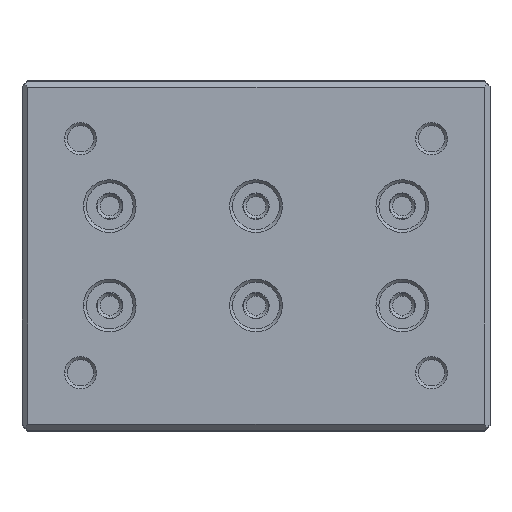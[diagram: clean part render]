
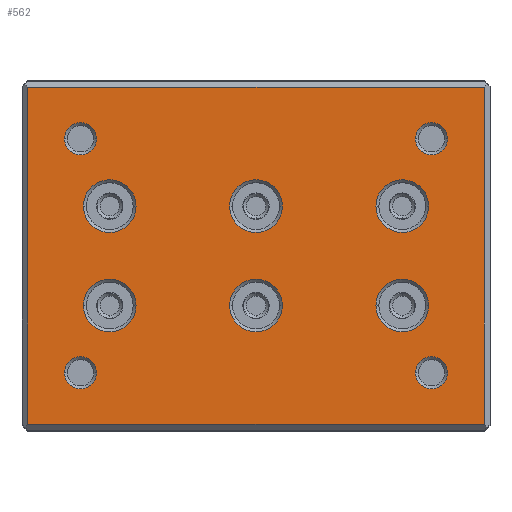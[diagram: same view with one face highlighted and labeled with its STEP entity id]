
A CAD part, top view. The second image highlights one B-rep face of the part: STEP entity #562.
In plain terms, the highlighted planar face has unit normal (0, 0, 1) as drawn and (0, 0, -1) by its records, which use the part's own axes.
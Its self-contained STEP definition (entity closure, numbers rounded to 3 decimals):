
#562=ADVANCED_FACE('',(#1223,#1224,#1225,#1226,#1227,#1228,#1229,#1230,
#1231,#1232,#1233),#849,.F.);
#849=PLANE('',#4666);
#947=CIRCLE('',#4646,2.75);
#948=CIRCLE('',#4647,2.75);
#949=CIRCLE('',#4648,2.75);
#950=CIRCLE('',#4649,2.75);
#951=CIRCLE('',#4650,2.75);
#952=CIRCLE('',#4651,2.75);
#953=CIRCLE('',#4652,2.75);
#954=CIRCLE('',#4653,2.75);
#955=CIRCLE('',#4654,4.5);
#956=CIRCLE('',#4655,4.5);
#957=CIRCLE('',#4656,4.5);
#958=CIRCLE('',#4657,4.5);
#959=CIRCLE('',#4658,4.5);
#960=CIRCLE('',#4659,4.5);
#961=CIRCLE('',#4660,4.5);
#962=CIRCLE('',#4661,4.5);
#963=CIRCLE('',#4662,4.5);
#964=CIRCLE('',#4663,4.5);
#965=CIRCLE('',#4664,4.5);
#966=CIRCLE('',#4665,4.5);
#1223=FACE_BOUND('',#1455,.T.);
#1224=FACE_BOUND('',#1456,.T.);
#1225=FACE_BOUND('',#1457,.T.);
#1226=FACE_BOUND('',#1458,.T.);
#1227=FACE_BOUND('',#1459,.T.);
#1228=FACE_BOUND('',#1460,.T.);
#1229=FACE_BOUND('',#1461,.T.);
#1230=FACE_BOUND('',#1462,.T.);
#1231=FACE_BOUND('',#1463,.T.);
#1232=FACE_BOUND('',#1464,.T.);
#1233=FACE_BOUND('',#1465,.T.);
#1455=EDGE_LOOP('',(#1879,#1880,#1881,#1882));
#1456=EDGE_LOOP('',(#1883,#1884));
#1457=EDGE_LOOP('',(#1885,#1886));
#1458=EDGE_LOOP('',(#1887,#1888));
#1459=EDGE_LOOP('',(#1889,#1890));
#1460=EDGE_LOOP('',(#1891,#1892));
#1461=EDGE_LOOP('',(#1893,#1894));
#1462=EDGE_LOOP('',(#1895,#1896));
#1463=EDGE_LOOP('',(#1897,#1898));
#1464=EDGE_LOOP('',(#1899,#1900));
#1465=EDGE_LOOP('',(#1901,#1902));
#1879=ORIENTED_EDGE('',*,*,#3507,.T.);
#1880=ORIENTED_EDGE('',*,*,#3508,.T.);
#1881=ORIENTED_EDGE('',*,*,#3509,.T.);
#1882=ORIENTED_EDGE('',*,*,#3510,.T.);
#1883=ORIENTED_EDGE('',*,*,#3511,.T.);
#1884=ORIENTED_EDGE('',*,*,#3512,.T.);
#1885=ORIENTED_EDGE('',*,*,#3513,.T.);
#1886=ORIENTED_EDGE('',*,*,#3514,.T.);
#1887=ORIENTED_EDGE('',*,*,#3515,.T.);
#1888=ORIENTED_EDGE('',*,*,#3516,.T.);
#1889=ORIENTED_EDGE('',*,*,#3517,.T.);
#1890=ORIENTED_EDGE('',*,*,#3518,.T.);
#1891=ORIENTED_EDGE('',*,*,#3519,.T.);
#1892=ORIENTED_EDGE('',*,*,#3520,.T.);
#1893=ORIENTED_EDGE('',*,*,#3521,.T.);
#1894=ORIENTED_EDGE('',*,*,#3522,.T.);
#1895=ORIENTED_EDGE('',*,*,#3523,.T.);
#1896=ORIENTED_EDGE('',*,*,#3524,.T.);
#1897=ORIENTED_EDGE('',*,*,#3525,.T.);
#1898=ORIENTED_EDGE('',*,*,#3526,.T.);
#1899=ORIENTED_EDGE('',*,*,#3527,.T.);
#1900=ORIENTED_EDGE('',*,*,#3528,.T.);
#1901=ORIENTED_EDGE('',*,*,#3529,.T.);
#1902=ORIENTED_EDGE('',*,*,#3530,.T.);
#3099=VERTEX_POINT('',#6615);
#3100=VERTEX_POINT('',#6616);
#3101=VERTEX_POINT('',#6618);
#3102=VERTEX_POINT('',#6620);
#3103=VERTEX_POINT('',#6623);
#3104=VERTEX_POINT('',#6624);
#3105=VERTEX_POINT('',#6627);
#3106=VERTEX_POINT('',#6628);
#3107=VERTEX_POINT('',#6631);
#3108=VERTEX_POINT('',#6632);
#3109=VERTEX_POINT('',#6635);
#3110=VERTEX_POINT('',#6636);
#3111=VERTEX_POINT('',#6639);
#3112=VERTEX_POINT('',#6640);
#3113=VERTEX_POINT('',#6643);
#3114=VERTEX_POINT('',#6644);
#3115=VERTEX_POINT('',#6647);
#3116=VERTEX_POINT('',#6648);
#3117=VERTEX_POINT('',#6651);
#3118=VERTEX_POINT('',#6652);
#3119=VERTEX_POINT('',#6655);
#3120=VERTEX_POINT('',#6656);
#3121=VERTEX_POINT('',#6659);
#3122=VERTEX_POINT('',#6660);
#3507=EDGE_CURVE('',#3099,#3100,#4117,.T.);
#3508=EDGE_CURVE('',#3100,#3101,#4118,.T.);
#3509=EDGE_CURVE('',#3101,#3102,#4119,.T.);
#3510=EDGE_CURVE('',#3102,#3099,#4120,.T.);
#3511=EDGE_CURVE('',#3103,#3104,#947,.T.);
#3512=EDGE_CURVE('',#3104,#3103,#948,.T.);
#3513=EDGE_CURVE('',#3105,#3106,#949,.T.);
#3514=EDGE_CURVE('',#3106,#3105,#950,.T.);
#3515=EDGE_CURVE('',#3107,#3108,#951,.T.);
#3516=EDGE_CURVE('',#3108,#3107,#952,.T.);
#3517=EDGE_CURVE('',#3109,#3110,#953,.T.);
#3518=EDGE_CURVE('',#3110,#3109,#954,.T.);
#3519=EDGE_CURVE('',#3111,#3112,#955,.T.);
#3520=EDGE_CURVE('',#3112,#3111,#956,.T.);
#3521=EDGE_CURVE('',#3113,#3114,#957,.T.);
#3522=EDGE_CURVE('',#3114,#3113,#958,.T.);
#3523=EDGE_CURVE('',#3115,#3116,#959,.T.);
#3524=EDGE_CURVE('',#3116,#3115,#960,.T.);
#3525=EDGE_CURVE('',#3117,#3118,#961,.T.);
#3526=EDGE_CURVE('',#3118,#3117,#962,.T.);
#3527=EDGE_CURVE('',#3119,#3120,#963,.T.);
#3528=EDGE_CURVE('',#3120,#3119,#964,.T.);
#3529=EDGE_CURVE('',#3121,#3122,#965,.T.);
#3530=EDGE_CURVE('',#3122,#3121,#966,.T.);
#4117=LINE('',#6614,#4381);
#4118=LINE('',#6617,#4382);
#4119=LINE('',#6619,#4383);
#4120=LINE('',#6621,#4384);
#4381=VECTOR('',#5215,1.);
#4382=VECTOR('',#5216,1.);
#4383=VECTOR('',#5217,1.);
#4384=VECTOR('',#5218,1.);
#4646=AXIS2_PLACEMENT_3D('',#6622,#5219,#5220);
#4647=AXIS2_PLACEMENT_3D('',#6625,#5221,#5222);
#4648=AXIS2_PLACEMENT_3D('',#6626,#5223,#5224);
#4649=AXIS2_PLACEMENT_3D('',#6629,#5225,#5226);
#4650=AXIS2_PLACEMENT_3D('',#6630,#5227,#5228);
#4651=AXIS2_PLACEMENT_3D('',#6633,#5229,#5230);
#4652=AXIS2_PLACEMENT_3D('',#6634,#5231,#5232);
#4653=AXIS2_PLACEMENT_3D('',#6637,#5233,#5234);
#4654=AXIS2_PLACEMENT_3D('',#6638,#5235,#5236);
#4655=AXIS2_PLACEMENT_3D('',#6641,#5237,#5238);
#4656=AXIS2_PLACEMENT_3D('',#6642,#5239,#5240);
#4657=AXIS2_PLACEMENT_3D('',#6645,#5241,#5242);
#4658=AXIS2_PLACEMENT_3D('',#6646,#5243,#5244);
#4659=AXIS2_PLACEMENT_3D('',#6649,#5245,#5246);
#4660=AXIS2_PLACEMENT_3D('',#6650,#5247,#5248);
#4661=AXIS2_PLACEMENT_3D('',#6653,#5249,#5250);
#4662=AXIS2_PLACEMENT_3D('',#6654,#5251,#5252);
#4663=AXIS2_PLACEMENT_3D('',#6657,#5253,#5254);
#4664=AXIS2_PLACEMENT_3D('',#6658,#5255,#5256);
#4665=AXIS2_PLACEMENT_3D('',#6661,#5257,#5258);
#4666=AXIS2_PLACEMENT_3D('',#6662,#5259,#5260);
#5215=DIRECTION('',(-1.,0.,0.));
#5216=DIRECTION('',(0.,1.,0.));
#5217=DIRECTION('',(1.,0.,0.));
#5218=DIRECTION('',(0.,-1.,0.));
#5219=DIRECTION('',(0.,0.,1.));
#5220=DIRECTION('',(1.,0.,0.));
#5221=DIRECTION('',(0.,0.,1.));
#5222=DIRECTION('',(1.,0.,0.));
#5223=DIRECTION('',(0.,0.,1.));
#5224=DIRECTION('',(1.,0.,0.));
#5225=DIRECTION('',(0.,0.,1.));
#5226=DIRECTION('',(1.,0.,0.));
#5227=DIRECTION('',(0.,0.,1.));
#5228=DIRECTION('',(1.,0.,0.));
#5229=DIRECTION('',(0.,0.,1.));
#5230=DIRECTION('',(1.,0.,0.));
#5231=DIRECTION('',(0.,0.,1.));
#5232=DIRECTION('',(1.,0.,0.));
#5233=DIRECTION('',(0.,0.,1.));
#5234=DIRECTION('',(1.,0.,0.));
#5235=DIRECTION('',(0.,0.,1.));
#5236=DIRECTION('',(1.,0.,0.));
#5237=DIRECTION('',(0.,0.,1.));
#5238=DIRECTION('',(1.,0.,0.));
#5239=DIRECTION('',(0.,0.,1.));
#5240=DIRECTION('',(1.,0.,0.));
#5241=DIRECTION('',(0.,0.,1.));
#5242=DIRECTION('',(1.,0.,0.));
#5243=DIRECTION('',(0.,0.,1.));
#5244=DIRECTION('',(1.,0.,0.));
#5245=DIRECTION('',(0.,0.,1.));
#5246=DIRECTION('',(1.,0.,0.));
#5247=DIRECTION('',(0.,0.,1.));
#5248=DIRECTION('',(1.,0.,0.));
#5249=DIRECTION('',(0.,0.,1.));
#5250=DIRECTION('',(1.,0.,0.));
#5251=DIRECTION('',(0.,0.,1.));
#5252=DIRECTION('',(1.,0.,0.));
#5253=DIRECTION('',(0.,0.,1.));
#5254=DIRECTION('',(1.,0.,0.));
#5255=DIRECTION('',(0.,0.,1.));
#5256=DIRECTION('',(1.,0.,0.));
#5257=DIRECTION('',(0.,0.,1.));
#5258=DIRECTION('',(1.,0.,0.));
#5259=DIRECTION('',(0.,0.,1.));
#5260=DIRECTION('',(-1.,0.,0.));
#6614=CARTESIAN_POINT('',(39.,-28.8,0.));
#6615=CARTESIAN_POINT('',(39.,-28.8,0.));
#6616=CARTESIAN_POINT('',(-39.,-28.8,0.));
#6617=CARTESIAN_POINT('',(-39.,-28.8,0.));
#6618=CARTESIAN_POINT('',(-39.,28.8,0.));
#6619=CARTESIAN_POINT('',(-39.,28.8,0.));
#6620=CARTESIAN_POINT('',(39.,28.8,0.));
#6621=CARTESIAN_POINT('',(39.,28.8,0.));
#6622=CARTESIAN_POINT('',(-30.,-20.,0.));
#6623=CARTESIAN_POINT('',(-32.75,-20.,0.));
#6624=CARTESIAN_POINT('',(-27.25,-20.,0.));
#6625=CARTESIAN_POINT('',(-30.,-20.,0.));
#6626=CARTESIAN_POINT('',(-30.,20.,0.));
#6627=CARTESIAN_POINT('',(-32.75,20.,0.));
#6628=CARTESIAN_POINT('',(-27.25,20.,0.));
#6629=CARTESIAN_POINT('',(-30.,20.,0.));
#6630=CARTESIAN_POINT('',(30.,20.,0.));
#6631=CARTESIAN_POINT('',(27.25,20.,0.));
#6632=CARTESIAN_POINT('',(32.75,20.,0.));
#6633=CARTESIAN_POINT('',(30.,20.,0.));
#6634=CARTESIAN_POINT('',(30.,-20.,0.));
#6635=CARTESIAN_POINT('',(27.25,-20.,0.));
#6636=CARTESIAN_POINT('',(32.75,-20.,0.));
#6637=CARTESIAN_POINT('',(30.,-20.,0.));
#6638=CARTESIAN_POINT('',(-25.,8.5,0.));
#6639=CARTESIAN_POINT('',(-20.5,8.5,0.));
#6640=CARTESIAN_POINT('',(-29.5,8.5,0.));
#6641=CARTESIAN_POINT('',(-25.,8.5,0.));
#6642=CARTESIAN_POINT('',(-25.,-8.5,0.));
#6643=CARTESIAN_POINT('',(-20.5,-8.5,0.));
#6644=CARTESIAN_POINT('',(-29.5,-8.5,0.));
#6645=CARTESIAN_POINT('',(-25.,-8.5,0.));
#6646=CARTESIAN_POINT('',(0.,8.5,0.));
#6647=CARTESIAN_POINT('',(4.5,8.5,0.));
#6648=CARTESIAN_POINT('',(-4.5,8.5,0.));
#6649=CARTESIAN_POINT('',(0.,8.5,0.));
#6650=CARTESIAN_POINT('',(0.,-8.5,0.));
#6651=CARTESIAN_POINT('',(4.5,-8.5,0.));
#6652=CARTESIAN_POINT('',(-4.5,-8.5,0.));
#6653=CARTESIAN_POINT('',(0.,-8.5,0.));
#6654=CARTESIAN_POINT('',(25.,-8.5,0.));
#6655=CARTESIAN_POINT('',(29.5,-8.5,0.));
#6656=CARTESIAN_POINT('',(20.5,-8.5,0.));
#6657=CARTESIAN_POINT('',(25.,-8.5,0.));
#6658=CARTESIAN_POINT('',(25.,8.5,0.));
#6659=CARTESIAN_POINT('',(20.5,8.5,0.));
#6660=CARTESIAN_POINT('',(29.5,8.5,0.));
#6661=CARTESIAN_POINT('',(25.,8.5,0.));
#6662=CARTESIAN_POINT('',(0.,0.,0.));
